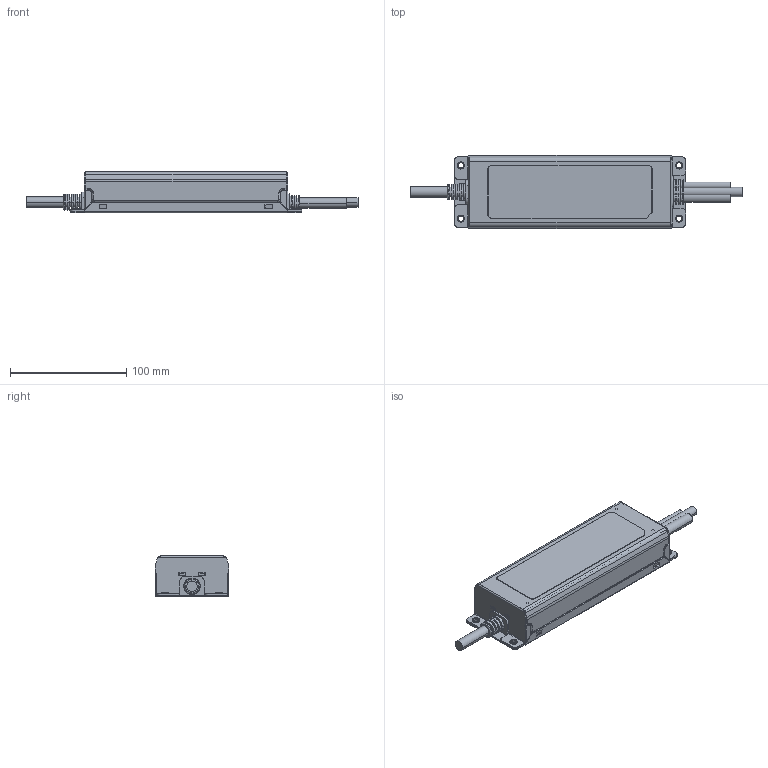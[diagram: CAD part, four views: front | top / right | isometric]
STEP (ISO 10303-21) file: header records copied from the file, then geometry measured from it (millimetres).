
FILE_DESCRIPTION(('Creo Elements/Direct Modeling STEP Export'),'2;1');
FILE_NAME('ELG-100-C.stp','2016-04-07T17:19:59',(''),(''),'PTC Creo Elements/Direct Modeling STEP processor for AP214 (Solid Model)','PTC Creo Elements/Direct Modeling 19.0 09-May-2014 (C) Parametric Technology GmbH','');
FILE_SCHEMA(('AUTOMOTIVE_DESIGN { 1 0 10303 214 1 1 1 1 }'));
Length unit declared in the file: millimetre
Products named in the file (8): op.1.2; IP.1.1; OP2; WIRE; 237A-T; 237C-D; CASE; ELG-100-C
Assembly tree (7 placements, depth 3):
  ELG-100-C
    CASE
      237C-D
      237A-T
    WIRE
      OP2
      IP.1.1
      op.1.2
Bounding box: 285.8 x 63.13 x 35.5 mm (x, y, z)
Volume: 70578.3 mm3; surface area: 98864.3 mm2
Topology: 5 solids, 5 shells, 743 faces, 1950 edges, 1257 vertices
Faces by surface type: plane 408, cylinder 267, torus 50, bspline 10, cone 6, sphere 2
Entity records: 24669 total; most frequent: CARTESIAN_POINT 6586, ORIENTED_EDGE 3896, DIRECTION 3558, EDGE_CURVE 1948, VERTEX_POINT 1257, AXIS2_PLACEMENT_3D 1208, VECTOR 1142, LINE 1142
